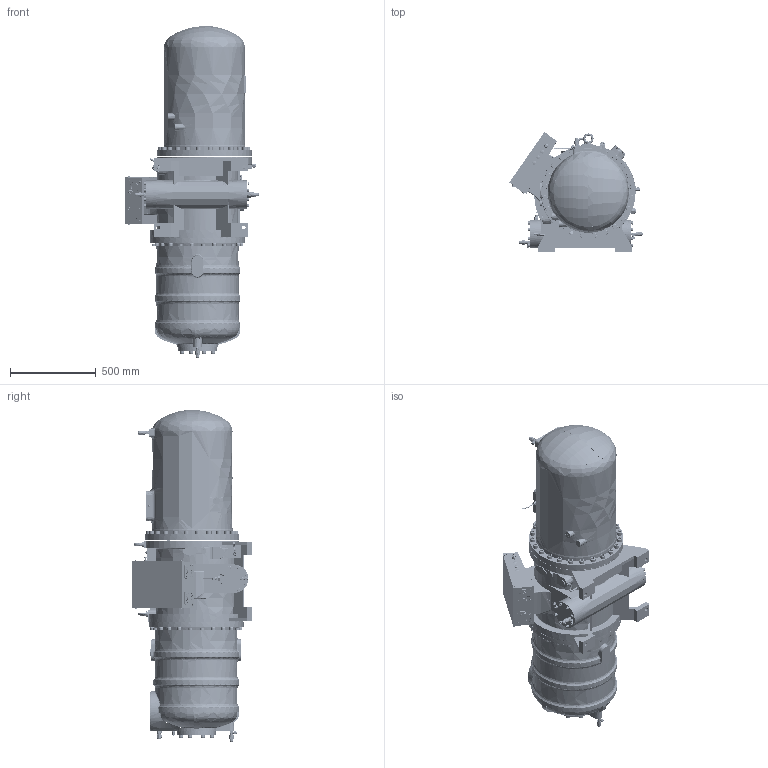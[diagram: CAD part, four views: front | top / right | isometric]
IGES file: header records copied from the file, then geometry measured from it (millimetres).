
Global section: file name: RC2-710B outline; native system: Autodesk Inventor 2017; preprocessor: unknown; author: hedylu; date: 20170628.110207; units: centimetre
Bounding box: 776.8 x 700.45 x 1935.32 mm (x, y, z)
Surface area: 6278512.3 mm2 (no closed solid volume)
Topology: 0 solids, 0 shells, 2952 faces, 33492 edges, 33485 vertices
Faces by surface type: bspline 1548, revolution 1404
